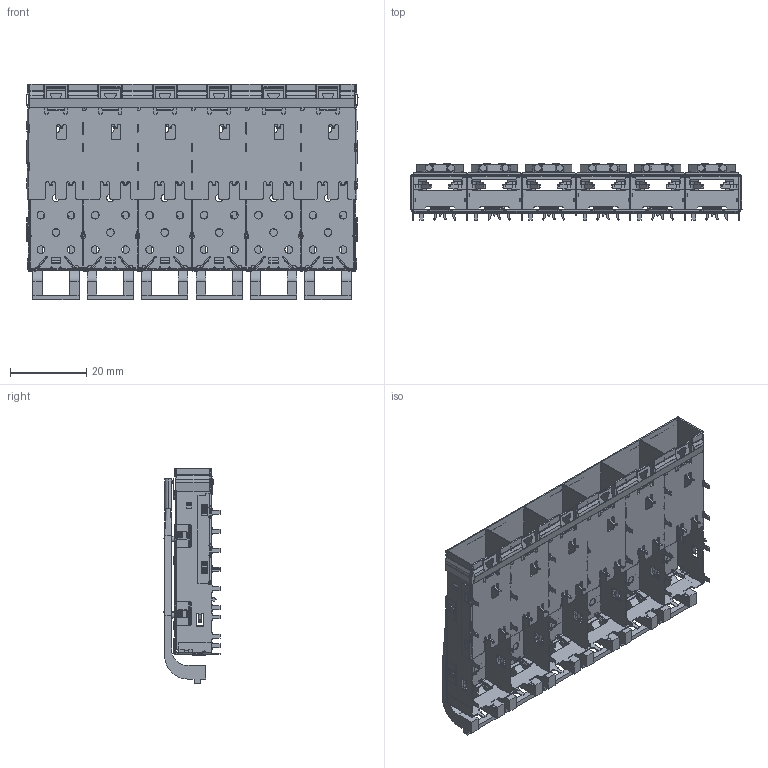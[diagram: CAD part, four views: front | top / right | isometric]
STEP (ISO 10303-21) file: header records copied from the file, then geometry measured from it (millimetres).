
FILE_DESCRIPTION((''),'2;1');
FILE_NAME('47018-00N011_ASM','2020-07-20T',('glg'),(''),'CREO PARAMETRIC BY PTC INC, 2017170','CREO PARAMETRIC BY PTC INC, 2017170','');
FILE_SCHEMA(('AUTOMOTIVE_DESIGN { 1 0 10303 214 1 1 1 1 }'));
Products named in the file (1): 47018-00N011_ASM
Bounding box: 86.95 x 14.7 x 56.43 mm (x, y, z)
Volume: 7012.2 mm3; surface area: 31079.8 mm2
Topology: 1 solids, 1 shells, 5176 faces, 15003 edges, 9682 vertices
Faces by surface type: plane 2677, cylinder 2389, bspline 100, extrusion 10
Entity records: 211785 total; most frequent: CARTESIAN_POINT 35107, ORIENTED_EDGE 30006, DIRECTION 29434, EDGE_CURVE 15003, AXIS2_PLACEMENT_3D 9924, VERTEX_POINT 9682, VECTOR 9586, LINE 9576
